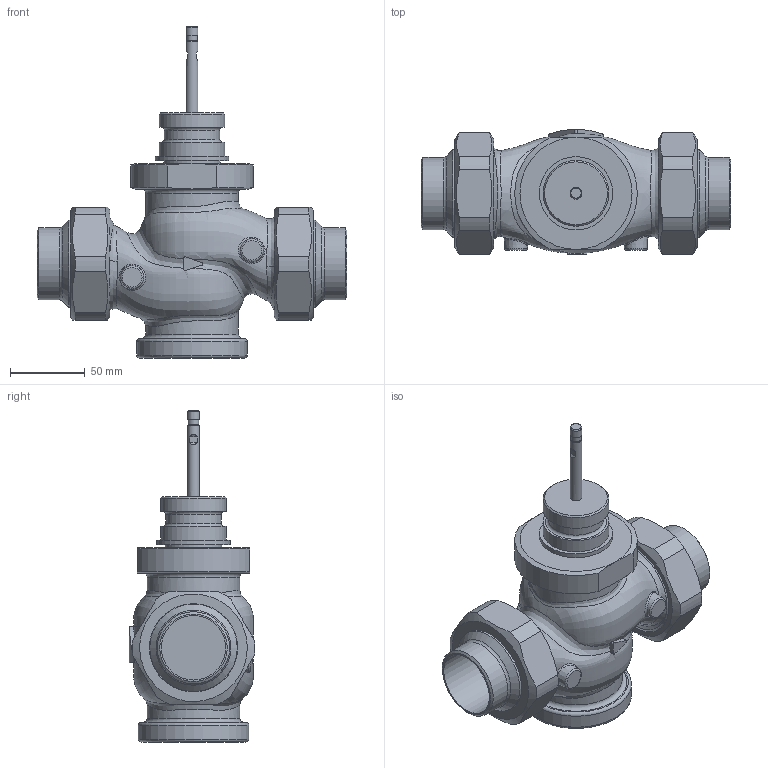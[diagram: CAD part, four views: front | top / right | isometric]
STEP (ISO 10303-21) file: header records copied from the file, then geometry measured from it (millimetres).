
FILE_DESCRIPTION(/* description */ (''),/* implementation_level */ '2;1');
FILE_NAME(/* name */ 'rv122_L_dn40_W.stp',/* time_stamp */ '2025-07-08T11:08:57+02:00',/* author */ ('Jan Novák'),/* organization */ ('LDM'),/* preprocessor_version */ 'ST-DEVELOPER v18.102',/* originating_system */ 'SIEMENS PLM Software NX2206.3001',/* authorisation */ '');
FILE_SCHEMA (('AUTOMOTIVE_DESIGN { 1 0 10303 214 3 1 1 1 }'));
Length unit declared in the file: millimetre
Products named in the file (1): rv_0763-766_rv122_L_dn40_objects
Bounding box: 207 x 83.98 x 222 mm (x, y, z)
Volume: 970359.1 mm3; surface area: 127398 mm2
Topology: 7 solids, 7 shells, 159 faces, 363 edges, 236 vertices
Faces by surface type: plane 57, cylinder 51, cone 27, bspline 14, torus 10
Full cylindrical faces by diameter (mm): 7 x1, 8 x2, 37 x1, 38 x1, 43.1 x2, 44 x2, 48.3 x2, 49 x1, 50 x2, 58.5 x2, 59 x2, 61.8 x2, 62 x4, 62.752 x2, 65.71 x2, 74 x1
Entity records: 12212 total; most frequent: CARTESIAN_POINT 9037, DIRECTION 603, ORIENTED_EDGE 512, AXIS2_PLACEMENT_3D 277, EDGE_CURVE 256, EDGE_LOOP 254, VERTEX_POINT 198, FACE_BOUND 188
